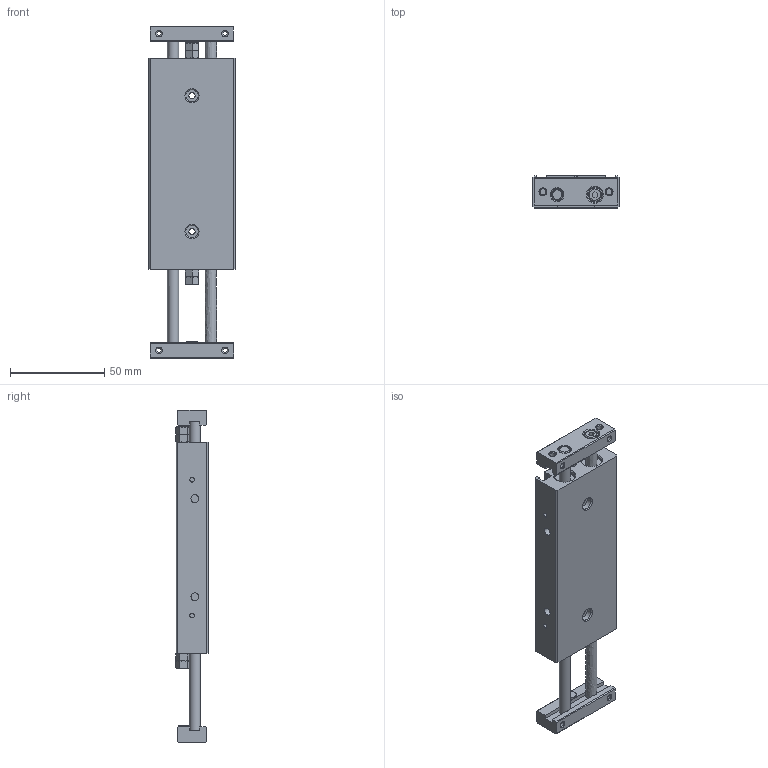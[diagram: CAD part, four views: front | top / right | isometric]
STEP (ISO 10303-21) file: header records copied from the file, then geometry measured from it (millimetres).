
FILE_DESCRIPTION((''),'2;1');
FILE_NAME('I:\3D電子目錄\氣缸\STX\STX\STX10\STX10x30.stp','2007-10-01T16:50:14',('Administrator'),(''),'Autodesk Inventor 11','Autodesk Inventor 11','');
FILE_SCHEMA(('AUTOMOTIVE_DESIGN { 1 0 10303 214 1 1 1 1 }'));
Length unit declared in the file: millimetre
Products named in the file (1): STX10
Bounding box: 46 x 17.04 x 176 mm (x, y, z)
Volume: 90634.5 mm3; surface area: 27775.7 mm2
Topology: 1 solids, 1 shells, 269 faces, 644 edges, 400 vertices
Faces by surface type: plane 135, cone 72, bspline 36, cylinder 22, torus 4
Full cylindrical faces by diameter (mm): 2.459 x2, 4.134 x2, 6 x6, 6.2 x2, 6.5 x2, 7 x2, 8 x2, 11 x2, 12 x2
Entity records: 7637 total; most frequent: CARTESIAN_POINT 2109, ORIENTED_EDGE 1082, DIRECTION 1076, EDGE_CURVE 541, AXIS2_PLACEMENT_3D 405, EDGE_LOOP 399, VERTEX_POINT 374, FACE_OUTER_BOUND 269
